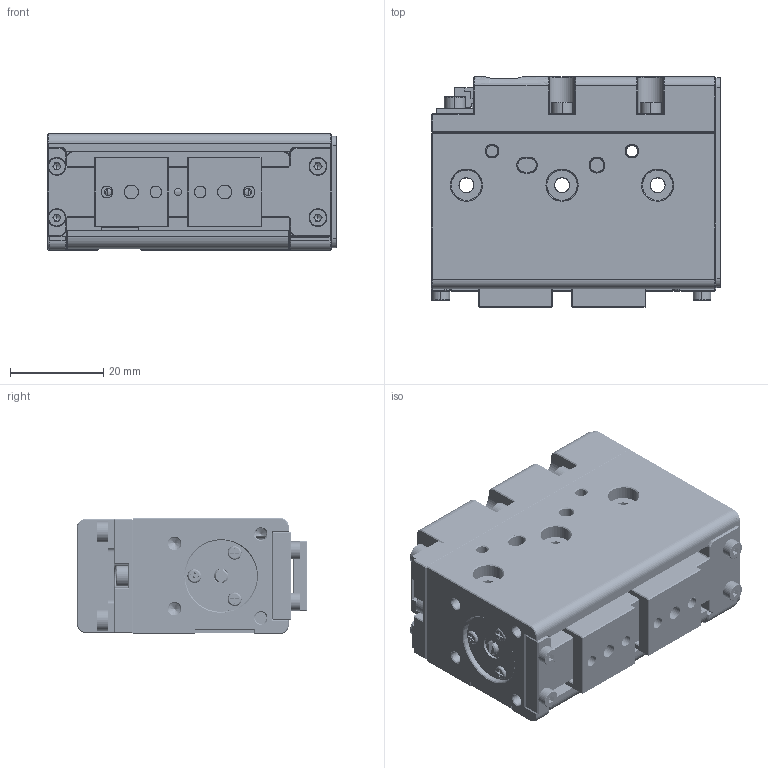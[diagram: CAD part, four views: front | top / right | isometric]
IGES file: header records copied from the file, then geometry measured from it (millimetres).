
Start section: SolidWorks IGES file using analytic representation for surfaces
Bounding box: 62 x 49.5 x 25 mm (x, y, z)
Surface area: 35241.7 mm2 (no closed solid volume)
Topology: 0 solids, 0 shells, 2133 faces, 22210 edges, 22073 vertices
Faces by surface type: bspline 1349, revolution 784
